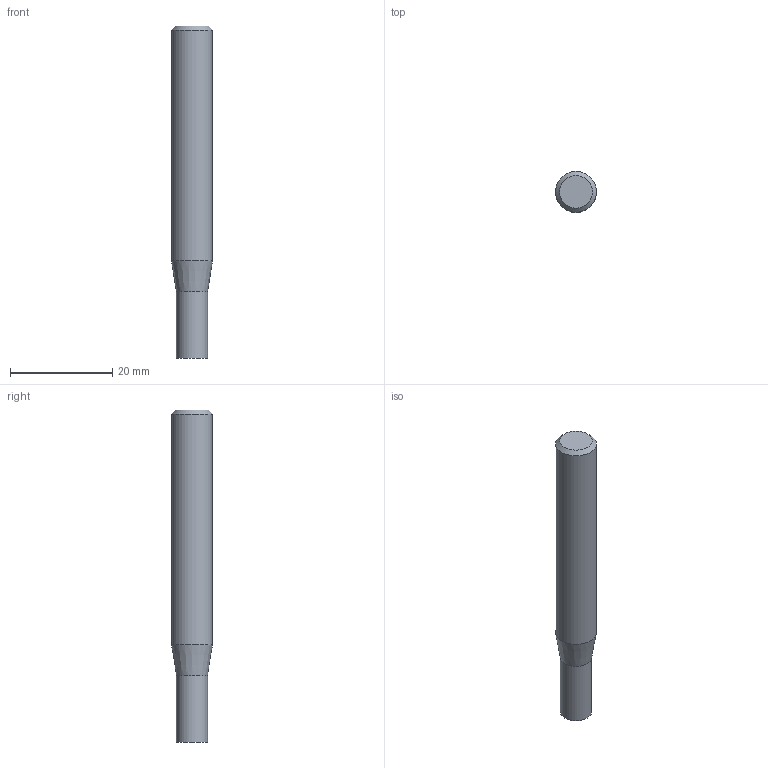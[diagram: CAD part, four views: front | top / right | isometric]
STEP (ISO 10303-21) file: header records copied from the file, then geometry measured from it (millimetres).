
FILE_DESCRIPTION((''),'2;1');
FILE_NAME('C:\Users\nsx150\AppData\Local\Temp\Mastercam 2021\98T1Q6BTT1\TEMP.step','2021-10-21T14:49:03',(''),(''),'STEP Write','Mastercam 2021 ... CNC Software, Inc.','');
FILE_SCHEMA(('AUTOMOTIVE_DESIGN'));
Length unit declared in the file: millimetre
Products named in the file (1): None
Bounding box: 8 x 8 x 65 mm (x, y, z)
Volume: 2920.3 mm3; surface area: 1665.1 mm2
Topology: 2 solids, 2 shells, 8 faces, 10 edges, 6 vertices
Faces by surface type: plane 4, cylinder 2, cone 2
Full cylindrical faces by diameter (mm): 6.1 x1, 8 x1
Entity records: 190 total; most frequent: DIRECTION 32, CARTESIAN_POINT 22, AXIS2_PLACEMENT_3D 16, ORIENTED_EDGE 12, EDGE_LOOP 12, STYLED_ITEM 11, ADVANCED_FACE 8, VERTEX_POINT 6
